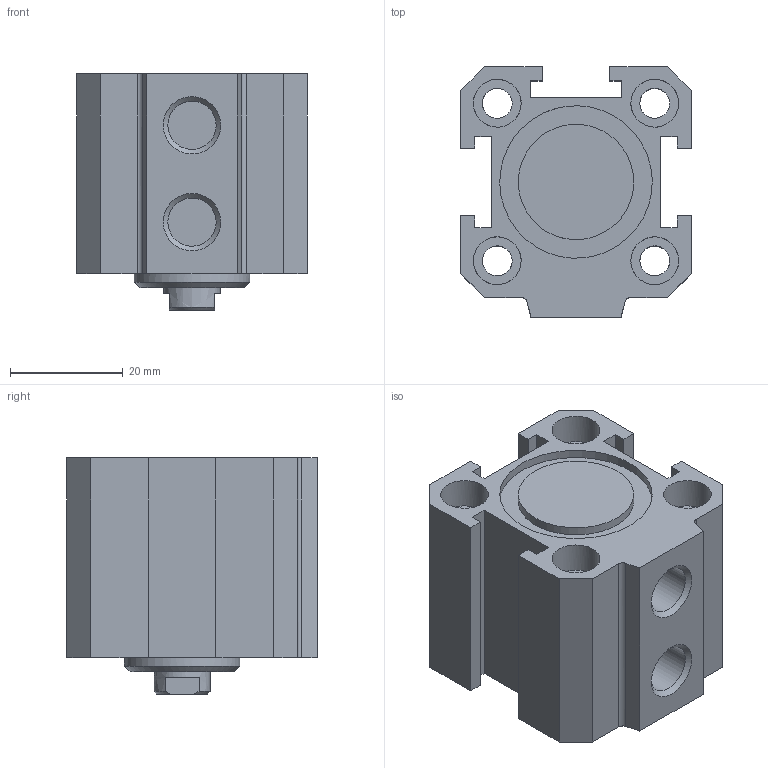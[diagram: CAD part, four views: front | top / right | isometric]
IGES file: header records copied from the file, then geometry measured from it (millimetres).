
Global section: file name: 1511_25_0000; native system: Autodesk Inventor 2014; preprocessor: unknown; author: A. Manieri; date: 20160824.111809; units: millimetre
Bounding box: 41 x 44.5 x 42 mm (x, y, z)
Volume: 46559.2 mm3; surface area: 19156.5 mm2
Topology: 2 solids, 2 shells, 93 faces, 241 edges, 170 vertices
Faces by surface type: bspline 93
